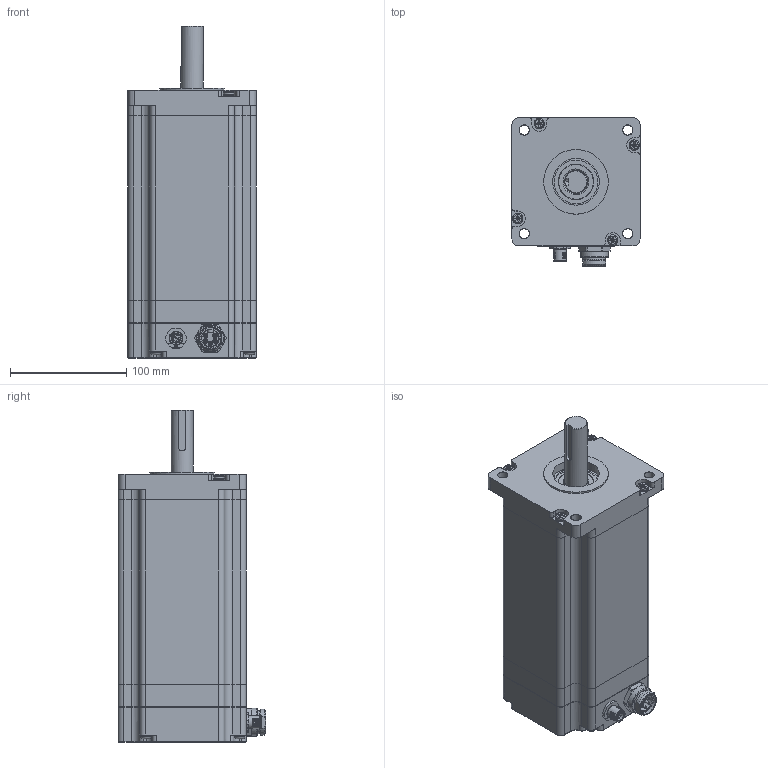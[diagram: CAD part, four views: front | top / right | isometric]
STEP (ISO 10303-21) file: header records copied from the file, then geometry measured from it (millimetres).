
FILE_DESCRIPTION (( 'STEP AP214' ), '1' );
FILE_NAME ('M110SH201B.STEP', '2022-01-31T09:33:43', ( '' ), ( '' ), 'SwSTEP 2.0', 'SolidWorks 2019', '' );
FILE_SCHEMA (( 'AUTOMOTIVE_DESIGN' ));
Length unit declared in the file: millimetre
Products named in the file (13): spring lock washer 2_din_DIN 6905-4.55-FSt; Statore 110 SH 201 BAO; Albero 110 SH 201 BAO; 1523492; Flangia A 110 BAO; Vite T.B. M5 x 39.5 BAO; Terminal box 110 SH BAO; Vite serrapacco M5 x 194.4 BAO; 7_8connector-1521452; SKF_6203-Z; SKF_6304-Z; M110SH201B; Flangia P 110 BAO
Assembly tree (21 placements, depth 2):
  M110SH201B
    Statore 110 SH 201 BAO
    Flangia A 110 BAO
    Flangia P 110 BAO
    spring lock washer 2_din_DIN 6905-4.55-FSt  x4
    Vite serrapacco M5 x 194.4 BAO  x4
    Albero 110 SH 201 BAO
    SKF_6203-Z
    SKF_6304-Z
    Terminal box 110 SH BAO
    Vite T.B. M5 x 39.5 BAO  x4
    7_8connector-1521452
    1523492
Bounding box: 110 x 127 x 285 mm (x, y, z)
Volume: 980870 mm3; surface area: 331260.5 mm2
Topology: 45 solids, 45 shells, 1439 faces, 3782 edges, 2482 vertices
Faces by surface type: plane 720, cylinder 339, bspline 234, cone 77, torus 69
Full cylindrical faces by diameter (mm): 0.217 x1, 0.8 x8, 1.09 x8, 2 x5, 2.4 x5, 2.5 x1, 3 x5, 3.3 x8, 4.2 x8, 4.38 x8, 4.98 x8, 5 x4, 5.5 x12, 8.5 x4, 9 x9, 10.7 x1, 10.9 x1, 14.5 x1, 17 x2, 17.8 x1, 18.5 x3, 19 x1, 20 x2, 22 x2, 24.5 x3, 30.35 x3, 32.7 x2, 34 x1, 34.98 x3, 40 x3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
Entity records: 56906 total; most frequent: CARTESIAN_POINT 19322, ORIENTED_EDGE 5826, DIRECTION 5480, EDGE_CURVE 2913, VERTEX_POINT 2000, AXIS2_PLACEMENT_3D 1877, LINE 1726, VECTOR 1726
